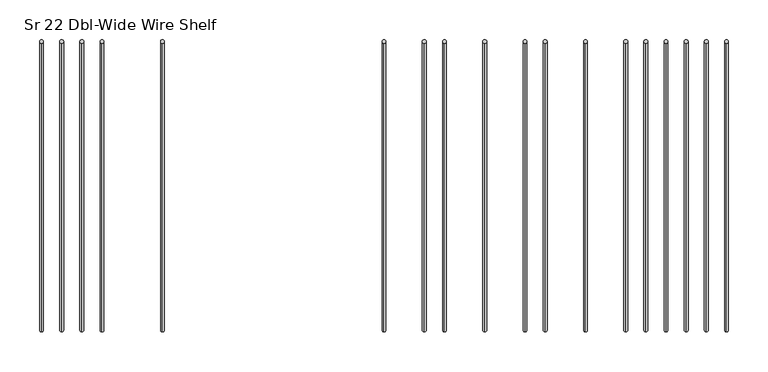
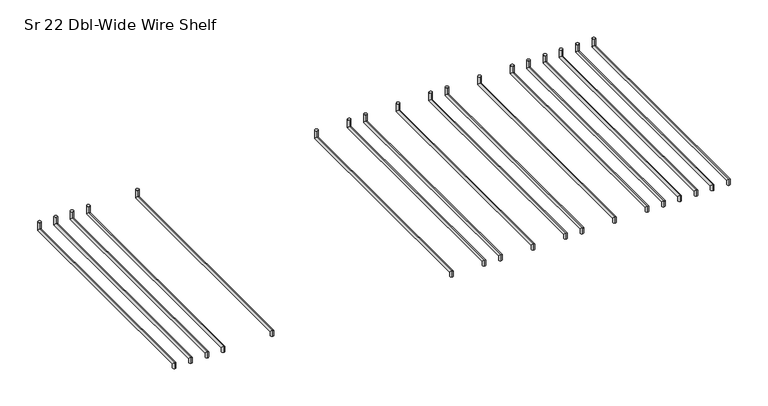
"""IFC4 building model written with IfcOpenShell, lengths in millimetres: furniture geometry, HermanMiller_Carts_CT521_CartShelf : Sr 22 Dbl-Wide Wire Shelf."""

from ifc_helpers import new_model, si_unit, frame, origin, place, context, project, spatial, circle_curve, ellipse_curve, source, transform, mapped, element, save
from ifc_brep_helpers import plane_surface, cylinder_surface, advanced_brep


def sr_22_dbl_wide_wire_shelf_ddc422bb(model_context):
    return source(origin(), model_context, "Body", "AdvancedBrep", [
        advanced_brep(
        [(561.7223083, -206.38135, 2224.6971), (561.7223083, -211.14385, 2224.6971), (561.7223083, -206.38135, 2229.4596), (561.7223083, -211.14385, 2234.2221), (561.7223083, 157.2983379, 2229.4596), (561.7223083, 152.5358379, 2234.2221), (561.7223083, 157.2983379, 2244.7377), (561.7223083, 152.5358379, 2244.7377)],
        [
            (0, 1, circle_curve(frame((561.7223083, -208.7626, 2224.6971), z_axis=(0.0, 0.0, -1.0), x_axis=(0.0, -1.0, 0.0)), 2.38125)),
            (1, 0, circle_curve(frame((561.7223083, -208.7626, 2224.6971), z_axis=(0.0, 0.0, -1.0), x_axis=(0.0, -1.0, 0.0)), 2.38125)),
            (0, 2),
            (2, 3, ellipse_curve(frame((561.7223083, -208.7626, 2231.84085), z_axis=(0.0, -0.7071067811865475, -0.7071067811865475), x_axis=(0.0, 0.7071067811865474, -0.7071067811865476)), 3.367596, 2.38125)),
            (3, 1),
            (3, 2, ellipse_curve(frame((561.7223083, -208.7626, 2231.84085), z_axis=(0.0, -0.7071067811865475, -0.7071067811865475), x_axis=(0.0, 0.7071067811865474, -0.7071067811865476)), 3.367596, 2.38125)),
            (2, 4),
            (4, 5, ellipse_curve(frame((561.7223083, 154.9170879, 2231.84085), z_axis=(0.0, -0.7071067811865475, -0.7071067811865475), x_axis=(0.0, -0.7071067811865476, 0.7071067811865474)), 3.367596, 2.38125)),
            (5, 3),
            (5, 4, ellipse_curve(frame((561.7223083, 154.9170879, 2231.84085), z_axis=(0.0, -0.7071067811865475, -0.7071067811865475), x_axis=(0.0, -0.7071067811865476, 0.7071067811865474)), 3.367596, 2.38125)),
            (6, 7, circle_curve(frame((561.7223083, 154.9170879, 2244.7377), z_axis=(0.0, 0.0, 1.0), x_axis=(0.0, -1.0, 0.0)), 2.38125)),
            (7, 6, circle_curve(frame((561.7223083, 154.9170879, 2244.7377), z_axis=(0.0, 0.0, 1.0), x_axis=(0.0, -1.0, 0.0)), 2.38125)),
            (4, 6),
            (7, 5),
        ],
        [
            plane_surface(frame((561.7223083, -208.7626, 2224.6971), z_axis=(0.0, 0.0, -1.0), x_axis=(1.0, 0.0, 0.0))),
            cylinder_surface(frame((561.7223083, -208.7626, 2224.6971), z_axis=(0.0, 0.0, -1.0), x_axis=(0.0, -1.0, 0.0)), 2.38125),
            cylinder_surface(frame((561.7223083, -208.7626, 2231.84085), z_axis=(0.0, -1.0, 0.0), x_axis=(0.0, 0.0, 1.0)), 2.38125),
            plane_surface(frame((561.7223083, 154.9170879, 2244.7377), z_axis=(0.0, 0.0, 1.0), x_axis=(1.0, 0.0, 0.0))),
            cylinder_surface(frame((561.7223083, 154.9170879, 2231.84085), z_axis=(0.0, 0.0, -1.0), x_axis=(0.0, -1.0, 0.0)), 2.38125),
        ],
        [
            (0, [[1, 2]]),
            (1, [[-1, 3, 4, 5]]),
            (1, [[-2, -5, 6, -3]]),
            (2, [[-4, 7, 8, 9]]),
            (2, [[-6, -9, 10, -7]]),
            (3, [[11, 12]]),
            (4, [[-8, 13, -12, 14]]),
            (4, [[-10, -14, -11, -13]]),
        ],
    ),
        advanced_brep(
        [(637.9223083, -206.38135, 2224.6971), (637.9223083, -211.14385, 2224.6971), (637.9223083, -206.38135, 2229.4596), (637.9223083, -211.14385, 2234.2221), (637.9223083, 157.2983379, 2229.4596), (637.9223083, 152.5358379, 2234.2221), (637.9223083, 157.2983379, 2244.7377), (637.9223083, 152.5358379, 2244.7377)],
        [
            (0, 1, circle_curve(frame((637.9223083, -208.7626, 2224.6971), z_axis=(0.0, 0.0, -1.0), x_axis=(0.0, -1.0, 0.0)), 2.38125)),
            (1, 0, circle_curve(frame((637.9223083, -208.7626, 2224.6971), z_axis=(0.0, 0.0, -1.0), x_axis=(0.0, -1.0, 0.0)), 2.38125)),
            (0, 2),
            (2, 3, ellipse_curve(frame((637.9223083, -208.7626, 2231.84085), z_axis=(0.0, -0.7071067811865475, -0.7071067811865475), x_axis=(0.0, 0.7071067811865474, -0.7071067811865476)), 3.367596, 2.38125)),
            (3, 1),
            (3, 2, ellipse_curve(frame((637.9223083, -208.7626, 2231.84085), z_axis=(0.0, -0.7071067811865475, -0.7071067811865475), x_axis=(0.0, 0.7071067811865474, -0.7071067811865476)), 3.367596, 2.38125)),
            (2, 4),
            (4, 5, ellipse_curve(frame((637.9223083, 154.9170879, 2231.84085), z_axis=(0.0, -0.7071067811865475, -0.7071067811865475), x_axis=(0.0, -0.7071067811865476, 0.7071067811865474)), 3.367596, 2.38125)),
            (5, 3),
            (5, 4, ellipse_curve(frame((637.9223083, 154.9170879, 2231.84085), z_axis=(0.0, -0.7071067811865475, -0.7071067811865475), x_axis=(0.0, -0.7071067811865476, 0.7071067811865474)), 3.367596, 2.38125)),
            (6, 7, circle_curve(frame((637.9223083, 154.9170879, 2244.7377), z_axis=(0.0, 0.0, 1.0), x_axis=(0.0, -1.0, 0.0)), 2.38125)),
            (7, 6, circle_curve(frame((637.9223083, 154.9170879, 2244.7377), z_axis=(0.0, 0.0, 1.0), x_axis=(0.0, -1.0, 0.0)), 2.38125)),
            (4, 6),
            (7, 5),
        ],
        [
            plane_surface(frame((637.9223083, -208.7626, 2224.6971), z_axis=(0.0, 0.0, -1.0), x_axis=(1.0, 0.0, 0.0))),
            cylinder_surface(frame((637.9223083, -208.7626, 2224.6971), z_axis=(0.0, 0.0, -1.0), x_axis=(0.0, -1.0, 0.0)), 2.38125),
            cylinder_surface(frame((637.9223083, -208.7626, 2231.84085), z_axis=(0.0, -1.0, 0.0), x_axis=(0.0, 0.0, 1.0)), 2.38125),
            plane_surface(frame((637.9223083, 154.9170879, 2244.7377), z_axis=(0.0, 0.0, 1.0), x_axis=(1.0, 0.0, 0.0))),
            cylinder_surface(frame((637.9223083, 154.9170879, 2231.84085), z_axis=(0.0, 0.0, -1.0), x_axis=(0.0, -1.0, 0.0)), 2.38125),
        ],
        [
            (0, [[1, 2]]),
            (1, [[-1, 3, 4, 5]]),
            (1, [[-2, -5, 6, -3]]),
            (2, [[-4, 7, 8, 9]]),
            (2, [[-6, -9, 10, -7]]),
            (3, [[11, 12]]),
            (4, [[-8, 13, -12, 14]]),
            (4, [[-10, -14, -11, -13]]),
        ],
    ),
        advanced_brep(
        [(688.7223083, -206.38135, 2224.6971), (688.7223083, -211.14385, 2224.6971), (688.7223083, -206.38135, 2229.4596), (688.7223083, -211.14385, 2234.2221), (688.7223083, 157.2983379, 2229.4596), (688.7223083, 152.5358379, 2234.2221), (688.7223083, 157.2983379, 2244.7377), (688.7223083, 152.5358379, 2244.7377)],
        [
            (0, 1, circle_curve(frame((688.7223083, -208.7626, 2224.6971), z_axis=(0.0, 0.0, -1.0), x_axis=(0.0, -1.0, 0.0)), 2.38125)),
            (1, 0, circle_curve(frame((688.7223083, -208.7626, 2224.6971), z_axis=(0.0, 0.0, -1.0), x_axis=(0.0, -1.0, 0.0)), 2.38125)),
            (0, 2),
            (2, 3, ellipse_curve(frame((688.7223083, -208.7626, 2231.84085), z_axis=(0.0, -0.7071067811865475, -0.7071067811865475), x_axis=(0.0, 0.7071067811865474, -0.7071067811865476)), 3.367596, 2.38125)),
            (3, 1),
            (3, 2, ellipse_curve(frame((688.7223083, -208.7626, 2231.84085), z_axis=(0.0, -0.7071067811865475, -0.7071067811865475), x_axis=(0.0, 0.7071067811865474, -0.7071067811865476)), 3.367596, 2.38125)),
            (2, 4),
            (4, 5, ellipse_curve(frame((688.7223083, 154.9170879, 2231.84085), z_axis=(0.0, -0.7071067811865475, -0.7071067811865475), x_axis=(0.0, -0.7071067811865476, 0.7071067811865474)), 3.367596, 2.38125)),
            (5, 3),
            (5, 4, ellipse_curve(frame((688.7223083, 154.9170879, 2231.84085), z_axis=(0.0, -0.7071067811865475, -0.7071067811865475), x_axis=(0.0, -0.7071067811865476, 0.7071067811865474)), 3.367596, 2.38125)),
            (6, 7, circle_curve(frame((688.7223083, 154.9170879, 2244.7377), z_axis=(0.0, 0.0, 1.0), x_axis=(0.0, -1.0, 0.0)), 2.38125)),
            (7, 6, circle_curve(frame((688.7223083, 154.9170879, 2244.7377), z_axis=(0.0, 0.0, 1.0), x_axis=(0.0, -1.0, 0.0)), 2.38125)),
            (4, 6),
            (7, 5),
        ],
        [
            plane_surface(frame((688.7223083, -208.7626, 2224.6971), z_axis=(0.0, 0.0, -1.0), x_axis=(1.0, 0.0, 0.0))),
            cylinder_surface(frame((688.7223083, -208.7626, 2224.6971), z_axis=(0.0, 0.0, -1.0), x_axis=(0.0, -1.0, 0.0)), 2.38125),
            cylinder_surface(frame((688.7223083, -208.7626, 2231.84085), z_axis=(0.0, -1.0, 0.0), x_axis=(0.0, 0.0, 1.0)), 2.38125),
            plane_surface(frame((688.7223083, 154.9170879, 2244.7377), z_axis=(0.0, 0.0, 1.0), x_axis=(1.0, 0.0, 0.0))),
            cylinder_surface(frame((688.7223083, 154.9170879, 2231.84085), z_axis=(0.0, 0.0, -1.0), x_axis=(0.0, -1.0, 0.0)), 2.38125),
        ],
        [
            (0, [[1, 2]]),
            (1, [[-1, 3, 4, 5]]),
            (1, [[-2, -5, 6, -3]]),
            (2, [[-4, 7, 8, 9]]),
            (2, [[-6, -9, 10, -7]]),
            (3, [[11, 12]]),
            (4, [[-8, 13, -12, 14]]),
            (4, [[-10, -14, -11, -13]]),
        ],
    ),
        advanced_brep(
        [(663.3223083, -206.38135, 2224.6971), (663.3223083, -211.14385, 2224.6971), (663.3223083, -206.38135, 2229.4596), (663.3223083, -211.14385, 2234.2221), (663.3223083, 157.2983379, 2229.4596), (663.3223083, 152.5358379, 2234.2221), (663.3223083, 157.2983379, 2244.7377), (663.3223083, 152.5358379, 2244.7377)],
        [
            (0, 1, circle_curve(frame((663.3223083, -208.7626, 2224.6971), z_axis=(0.0, 0.0, -1.0), x_axis=(0.0, -1.0, 0.0)), 2.38125)),
            (1, 0, circle_curve(frame((663.3223083, -208.7626, 2224.6971), z_axis=(0.0, 0.0, -1.0), x_axis=(0.0, -1.0, 0.0)), 2.38125)),
            (0, 2),
            (2, 3, ellipse_curve(frame((663.3223083, -208.7626, 2231.84085), z_axis=(0.0, -0.7071067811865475, -0.7071067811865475), x_axis=(0.0, 0.7071067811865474, -0.7071067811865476)), 3.367596, 2.38125)),
            (3, 1),
            (3, 2, ellipse_curve(frame((663.3223083, -208.7626, 2231.84085), z_axis=(0.0, -0.7071067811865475, -0.7071067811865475), x_axis=(0.0, 0.7071067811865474, -0.7071067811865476)), 3.367596, 2.38125)),
            (2, 4),
            (4, 5, ellipse_curve(frame((663.3223083, 154.9170879, 2231.84085), z_axis=(0.0, -0.7071067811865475, -0.7071067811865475), x_axis=(0.0, -0.7071067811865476, 0.7071067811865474)), 3.367596, 2.38125)),
            (5, 3),
            (5, 4, ellipse_curve(frame((663.3223083, 154.9170879, 2231.84085), z_axis=(0.0, -0.7071067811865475, -0.7071067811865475), x_axis=(0.0, -0.7071067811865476, 0.7071067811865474)), 3.367596, 2.38125)),
            (6, 7, circle_curve(frame((663.3223083, 154.9170879, 2244.7377), z_axis=(0.0, 0.0, 1.0), x_axis=(0.0, -1.0, 0.0)), 2.38125)),
            (7, 6, circle_curve(frame((663.3223083, 154.9170879, 2244.7377), z_axis=(0.0, 0.0, 1.0), x_axis=(0.0, -1.0, 0.0)), 2.38125)),
            (4, 6),
            (7, 5),
        ],
        [
            plane_surface(frame((663.3223083, -208.7626, 2224.6971), z_axis=(0.0, 0.0, -1.0), x_axis=(1.0, 0.0, 0.0))),
            cylinder_surface(frame((663.3223083, -208.7626, 2224.6971), z_axis=(0.0, 0.0, -1.0), x_axis=(0.0, -1.0, 0.0)), 2.38125),
            cylinder_surface(frame((663.3223083, -208.7626, 2231.84085), z_axis=(0.0, -1.0, 0.0), x_axis=(0.0, 0.0, 1.0)), 2.38125),
            plane_surface(frame((663.3223083, 154.9170879, 2244.7377), z_axis=(0.0, 0.0, 1.0), x_axis=(1.0, 0.0, 0.0))),
            cylinder_surface(frame((663.3223083, 154.9170879, 2231.84085), z_axis=(0.0, 0.0, -1.0), x_axis=(0.0, -1.0, 0.0)), 2.38125),
        ],
        [
            (0, [[1, 2]]),
            (1, [[-1, 3, 4, 5]]),
            (1, [[-2, -5, 6, -3]]),
            (2, [[-4, 7, 8, 9]]),
            (2, [[-6, -9, 10, -7]]),
            (3, [[11, 12]]),
            (4, [[-8, 13, -12, 14]]),
            (4, [[-10, -14, -11, -13]]),
        ],
    ),
        advanced_brep(
        [(612.5223083, -206.38135, 2224.6971), (612.5223083, -211.14385, 2224.6971), (612.5223083, -206.38135, 2229.4596), (612.5223083, -211.14385, 2234.2221), (612.5223083, 157.2983379, 2229.4596), (612.5223083, 152.5358379, 2234.2221), (612.5223083, 157.2983379, 2244.7377), (612.5223083, 152.5358379, 2244.7377)],
        [
            (0, 1, circle_curve(frame((612.5223083, -208.7626, 2224.6971), z_axis=(0.0, 0.0, -1.0), x_axis=(0.0, -1.0, 0.0)), 2.38125)),
            (1, 0, circle_curve(frame((612.5223083, -208.7626, 2224.6971), z_axis=(0.0, 0.0, -1.0), x_axis=(0.0, -1.0, 0.0)), 2.38125)),
            (0, 2),
            (2, 3, ellipse_curve(frame((612.5223083, -208.7626, 2231.84085), z_axis=(0.0, -0.7071067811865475, -0.7071067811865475), x_axis=(0.0, 0.7071067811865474, -0.7071067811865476)), 3.367596, 2.38125)),
            (3, 1),
            (3, 2, ellipse_curve(frame((612.5223083, -208.7626, 2231.84085), z_axis=(0.0, -0.7071067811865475, -0.7071067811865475), x_axis=(0.0, 0.7071067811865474, -0.7071067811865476)), 3.367596, 2.38125)),
            (2, 4),
            (4, 5, ellipse_curve(frame((612.5223083, 154.9170879, 2231.84085), z_axis=(0.0, -0.7071067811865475, -0.7071067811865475), x_axis=(0.0, -0.7071067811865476, 0.7071067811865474)), 3.367596, 2.38125)),
            (5, 3),
            (5, 4, ellipse_curve(frame((612.5223083, 154.9170879, 2231.84085), z_axis=(0.0, -0.7071067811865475, -0.7071067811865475), x_axis=(0.0, -0.7071067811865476, 0.7071067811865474)), 3.367596, 2.38125)),
            (6, 7, circle_curve(frame((612.5223083, 154.9170879, 2244.7377), z_axis=(0.0, 0.0, 1.0), x_axis=(0.0, -1.0, 0.0)), 2.38125)),
            (7, 6, circle_curve(frame((612.5223083, 154.9170879, 2244.7377), z_axis=(0.0, 0.0, 1.0), x_axis=(0.0, -1.0, 0.0)), 2.38125)),
            (4, 6),
            (7, 5),
        ],
        [
            plane_surface(frame((612.5223083, -208.7626, 2224.6971), z_axis=(0.0, 0.0, -1.0), x_axis=(1.0, 0.0, 0.0))),
            cylinder_surface(frame((612.5223083, -208.7626, 2224.6971), z_axis=(0.0, 0.0, -1.0), x_axis=(0.0, -1.0, 0.0)), 2.38125),
            cylinder_surface(frame((612.5223083, -208.7626, 2231.84085), z_axis=(0.0, -1.0, 0.0), x_axis=(0.0, 0.0, 1.0)), 2.38125),
            plane_surface(frame((612.5223083, 154.9170879, 2244.7377), z_axis=(0.0, 0.0, 1.0), x_axis=(1.0, 0.0, 0.0))),
            cylinder_surface(frame((612.5223083, 154.9170879, 2231.84085), z_axis=(0.0, 0.0, -1.0), x_axis=(0.0, -1.0, 0.0)), 2.38125),
        ],
        [
            (0, [[1, 2]]),
            (1, [[-1, 3, 4, 5]]),
            (1, [[-2, -5, 6, -3]]),
            (2, [[-4, 7, 8, 9]]),
            (2, [[-6, -9, 10, -7]]),
            (3, [[11, 12]]),
            (4, [[-8, 13, -12, 14]]),
            (4, [[-10, -14, -11, -13]]),
        ],
    ),
        advanced_brep(
        [(587.1223083, -206.38135, 2224.6971), (587.1223083, -211.14385, 2224.6971), (587.1223083, -206.38135, 2229.4596), (587.1223083, -211.14385, 2234.2221), (587.1223083, 157.2983379, 2229.4596), (587.1223083, 152.5358379, 2234.2221), (587.1223083, 157.2983379, 2244.7377), (587.1223083, 152.5358379, 2244.7377)],
        [
            (0, 1, circle_curve(frame((587.1223083, -208.7626, 2224.6971), z_axis=(0.0, 0.0, -1.0), x_axis=(0.0, -1.0, 0.0)), 2.38125)),
            (1, 0, circle_curve(frame((587.1223083, -208.7626, 2224.6971), z_axis=(0.0, 0.0, -1.0), x_axis=(0.0, -1.0, 0.0)), 2.38125)),
            (0, 2),
            (2, 3, ellipse_curve(frame((587.1223083, -208.7626, 2231.84085), z_axis=(0.0, -0.7071067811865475, -0.7071067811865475), x_axis=(0.0, 0.7071067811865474, -0.7071067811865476)), 3.367596, 2.38125)),
            (3, 1),
            (3, 2, ellipse_curve(frame((587.1223083, -208.7626, 2231.84085), z_axis=(0.0, -0.7071067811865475, -0.7071067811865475), x_axis=(0.0, 0.7071067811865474, -0.7071067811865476)), 3.367596, 2.38125)),
            (2, 4),
            (4, 5, ellipse_curve(frame((587.1223083, 154.9170879, 2231.84085), z_axis=(0.0, -0.7071067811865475, -0.7071067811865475), x_axis=(0.0, -0.7071067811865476, 0.7071067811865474)), 3.367596, 2.38125)),
            (5, 3),
            (5, 4, ellipse_curve(frame((587.1223083, 154.9170879, 2231.84085), z_axis=(0.0, -0.7071067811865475, -0.7071067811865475), x_axis=(0.0, -0.7071067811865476, 0.7071067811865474)), 3.367596, 2.38125)),
            (6, 7, circle_curve(frame((587.1223083, 154.9170879, 2244.7377), z_axis=(0.0, 0.0, 1.0), x_axis=(0.0, -1.0, 0.0)), 2.38125)),
            (7, 6, circle_curve(frame((587.1223083, 154.9170879, 2244.7377), z_axis=(0.0, 0.0, 1.0), x_axis=(0.0, -1.0, 0.0)), 2.38125)),
            (4, 6),
            (7, 5),
        ],
        [
            plane_surface(frame((587.1223083, -208.7626, 2224.6971), z_axis=(0.0, 0.0, -1.0), x_axis=(1.0, 0.0, 0.0))),
            cylinder_surface(frame((587.1223083, -208.7626, 2224.6971), z_axis=(0.0, 0.0, -1.0), x_axis=(0.0, -1.0, 0.0)), 2.38125),
            cylinder_surface(frame((587.1223083, -208.7626, 2231.84085), z_axis=(0.0, -1.0, 0.0), x_axis=(0.0, 0.0, 1.0)), 2.38125),
            plane_surface(frame((587.1223083, 154.9170879, 2244.7377), z_axis=(0.0, 0.0, 1.0), x_axis=(1.0, 0.0, 0.0))),
            cylinder_surface(frame((587.1223083, 154.9170879, 2231.84085), z_axis=(0.0, 0.0, -1.0), x_axis=(0.0, -1.0, 0.0)), 2.38125),
        ],
        [
            (0, [[1, 2]]),
            (1, [[-1, 3, 4, 5]]),
            (1, [[-2, -5, 6, -3]]),
            (2, [[-4, 7, 8, 9]]),
            (2, [[-6, -9, 10, -7]]),
            (3, [[11, 12]]),
            (4, [[-8, 13, -12, 14]]),
            (4, [[-10, -14, -11, -13]]),
        ],
    ),
        advanced_brep(
        [(510.9223083, -206.38135, 2224.6971), (510.9223083, -211.14385, 2224.6971), (510.9223083, -206.38135, 2229.4596), (510.9223083, -211.14385, 2234.2221), (510.9223083, 157.2983379, 2229.4596), (510.9223083, 152.5358379, 2234.2221), (510.9223083, 157.2983379, 2244.7377), (510.9223083, 152.5358379, 2244.7377)],
        [
            (0, 1, circle_curve(frame((510.9223083, -208.7626, 2224.6971), z_axis=(0.0, 0.0, -1.0), x_axis=(0.0, -1.0, 0.0)), 2.38125)),
            (1, 0, circle_curve(frame((510.9223083, -208.7626, 2224.6971), z_axis=(0.0, 0.0, -1.0), x_axis=(0.0, -1.0, 0.0)), 2.38125)),
            (0, 2),
            (2, 3, ellipse_curve(frame((510.9223083, -208.7626, 2231.84085), z_axis=(0.0, -0.7071067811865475, -0.7071067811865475), x_axis=(0.0, 0.7071067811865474, -0.7071067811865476)), 3.367596, 2.38125)),
            (3, 1),
            (3, 2, ellipse_curve(frame((510.9223083, -208.7626, 2231.84085), z_axis=(0.0, -0.7071067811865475, -0.7071067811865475), x_axis=(0.0, 0.7071067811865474, -0.7071067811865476)), 3.367596, 2.38125)),
            (2, 4),
            (4, 5, ellipse_curve(frame((510.9223083, 154.9170879, 2231.84085), z_axis=(0.0, -0.7071067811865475, -0.7071067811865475), x_axis=(0.0, -0.7071067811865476, 0.7071067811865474)), 3.367596, 2.38125)),
            (5, 3),
            (5, 4, ellipse_curve(frame((510.9223083, 154.9170879, 2231.84085), z_axis=(0.0, -0.7071067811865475, -0.7071067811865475), x_axis=(0.0, -0.7071067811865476, 0.7071067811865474)), 3.367596, 2.38125)),
            (6, 7, circle_curve(frame((510.9223083, 154.9170879, 2244.7377), z_axis=(0.0, 0.0, 1.0), x_axis=(0.0, -1.0, 0.0)), 2.38125)),
            (7, 6, circle_curve(frame((510.9223083, 154.9170879, 2244.7377), z_axis=(0.0, 0.0, 1.0), x_axis=(0.0, -1.0, 0.0)), 2.38125)),
            (4, 6),
            (7, 5),
        ],
        [
            plane_surface(frame((510.9223083, -208.7626, 2224.6971), z_axis=(0.0, 0.0, -1.0), x_axis=(1.0, 0.0, 0.0))),
            cylinder_surface(frame((510.9223083, -208.7626, 2224.6971), z_axis=(0.0, 0.0, -1.0), x_axis=(0.0, -1.0, 0.0)), 2.38125),
            cylinder_surface(frame((510.9223083, -208.7626, 2231.84085), z_axis=(0.0, -1.0, 0.0), x_axis=(0.0, 0.0, 1.0)), 2.38125),
            plane_surface(frame((510.9223083, 154.9170879, 2244.7377), z_axis=(0.0, 0.0, 1.0), x_axis=(1.0, 0.0, 0.0))),
            cylinder_surface(frame((510.9223083, 154.9170879, 2231.84085), z_axis=(0.0, 0.0, -1.0), x_axis=(0.0, -1.0, 0.0)), 2.38125),
        ],
        [
            (0, [[1, 2]]),
            (1, [[-1, 3, 4, 5]]),
            (1, [[-2, -5, 6, -3]]),
            (2, [[-4, 7, 8, 9]]),
            (2, [[-6, -9, 10, -7]]),
            (3, [[11, 12]]),
            (4, [[-8, 13, -12, 14]]),
            (4, [[-10, -14, -11, -13]]),
        ],
    ),
        advanced_brep(
        [(460.1223083, -206.38135, 2224.6971), (460.1223083, -211.14385, 2224.6971), (460.1223083, -206.38135, 2229.4596), (460.1223083, -211.14385, 2234.2221), (460.1223083, 157.2983379, 2229.4596), (460.1223083, 152.5358379, 2234.2221), (460.1223083, 157.2983379, 2244.7377), (460.1223083, 152.5358379, 2244.7377)],
        [
            (0, 1, circle_curve(frame((460.1223083, -208.7626, 2224.6971), z_axis=(0.0, 0.0, -1.0), x_axis=(0.0, -1.0, 0.0)), 2.38125)),
            (1, 0, circle_curve(frame((460.1223083, -208.7626, 2224.6971), z_axis=(0.0, 0.0, -1.0), x_axis=(0.0, -1.0, 0.0)), 2.38125)),
            (0, 2),
            (2, 3, ellipse_curve(frame((460.1223083, -208.7626, 2231.84085), z_axis=(0.0, -0.7071067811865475, -0.7071067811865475), x_axis=(0.0, 0.7071067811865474, -0.7071067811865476)), 3.367596, 2.38125)),
            (3, 1),
            (3, 2, ellipse_curve(frame((460.1223083, -208.7626, 2231.84085), z_axis=(0.0, -0.7071067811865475, -0.7071067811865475), x_axis=(0.0, 0.7071067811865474, -0.7071067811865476)), 3.367596, 2.38125)),
            (2, 4),
            (4, 5, ellipse_curve(frame((460.1223083, 154.9170879, 2231.84085), z_axis=(0.0, -0.7071067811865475, -0.7071067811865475), x_axis=(0.0, -0.7071067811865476, 0.7071067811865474)), 3.367596, 2.38125)),
            (5, 3),
            (5, 4, ellipse_curve(frame((460.1223083, 154.9170879, 2231.84085), z_axis=(0.0, -0.7071067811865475, -0.7071067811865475), x_axis=(0.0, -0.7071067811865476, 0.7071067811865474)), 3.367596, 2.38125)),
            (6, 7, circle_curve(frame((460.1223083, 154.9170879, 2244.7377), z_axis=(0.0, 0.0, 1.0), x_axis=(0.0, -1.0, 0.0)), 2.38125)),
            (7, 6, circle_curve(frame((460.1223083, 154.9170879, 2244.7377), z_axis=(0.0, 0.0, 1.0), x_axis=(0.0, -1.0, 0.0)), 2.38125)),
            (4, 6),
            (7, 5),
        ],
        [
            plane_surface(frame((460.1223083, -208.7626, 2224.6971), z_axis=(0.0, 0.0, -1.0), x_axis=(1.0, 0.0, 0.0))),
            cylinder_surface(frame((460.1223083, -208.7626, 2224.6971), z_axis=(0.0, 0.0, -1.0), x_axis=(0.0, -1.0, 0.0)), 2.38125),
            cylinder_surface(frame((460.1223083, -208.7626, 2231.84085), z_axis=(0.0, -1.0, 0.0), x_axis=(0.0, 0.0, 1.0)), 2.38125),
            plane_surface(frame((460.1223083, 154.9170879, 2244.7377), z_axis=(0.0, 0.0, 1.0), x_axis=(1.0, 0.0, 0.0))),
            cylinder_surface(frame((460.1223083, 154.9170879, 2231.84085), z_axis=(0.0, 0.0, -1.0), x_axis=(0.0, -1.0, 0.0)), 2.38125),
        ],
        [
            (0, [[1, 2]]),
            (1, [[-1, 3, 4, 5]]),
            (1, [[-2, -5, 6, -3]]),
            (2, [[-4, 7, 8, 9]]),
            (2, [[-6, -9, 10, -7]]),
            (3, [[11, 12]]),
            (4, [[-8, 13, -12, 14]]),
            (4, [[-10, -14, -11, -13]]),
        ],
    ),
        advanced_brep(
        [(434.7223083, -206.38135, 2224.6971), (434.7223083, -211.14385, 2224.6971), (434.7223083, -206.38135, 2229.4596), (434.7223083, -211.14385, 2234.2221), (434.7223083, 157.2983379, 2229.4596), (434.7223083, 152.5358379, 2234.2221), (434.7223083, 157.2983379, 2244.7377), (434.7223083, 152.5358379, 2244.7377)],
        [
            (0, 1, circle_curve(frame((434.7223083, -208.7626, 2224.6971), z_axis=(0.0, 0.0, -1.0), x_axis=(0.0, -1.0, 0.0)), 2.38125)),
            (1, 0, circle_curve(frame((434.7223083, -208.7626, 2224.6971), z_axis=(0.0, 0.0, -1.0), x_axis=(0.0, -1.0, 0.0)), 2.38125)),
            (0, 2),
            (2, 3, ellipse_curve(frame((434.7223083, -208.7626, 2231.84085), z_axis=(0.0, -0.7071067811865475, -0.7071067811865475), x_axis=(0.0, 0.7071067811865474, -0.7071067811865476)), 3.367596, 2.38125)),
            (3, 1),
            (3, 2, ellipse_curve(frame((434.7223083, -208.7626, 2231.84085), z_axis=(0.0, -0.7071067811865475, -0.7071067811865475), x_axis=(0.0, 0.7071067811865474, -0.7071067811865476)), 3.367596, 2.38125)),
            (2, 4),
            (4, 5, ellipse_curve(frame((434.7223083, 154.9170879, 2231.84085), z_axis=(0.0, -0.7071067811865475, -0.7071067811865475), x_axis=(0.0, -0.7071067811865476, 0.7071067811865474)), 3.367596, 2.38125)),
            (5, 3),
            (5, 4, ellipse_curve(frame((434.7223083, 154.9170879, 2231.84085), z_axis=(0.0, -0.7071067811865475, -0.7071067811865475), x_axis=(0.0, -0.7071067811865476, 0.7071067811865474)), 3.367596, 2.38125)),
            (6, 7, circle_curve(frame((434.7223083, 154.9170879, 2244.7377), z_axis=(0.0, 0.0, 1.0), x_axis=(0.0, -1.0, 0.0)), 2.38125)),
            (7, 6, circle_curve(frame((434.7223083, 154.9170879, 2244.7377), z_axis=(0.0, 0.0, 1.0), x_axis=(0.0, -1.0, 0.0)), 2.38125)),
            (4, 6),
            (7, 5),
        ],
        [
            plane_surface(frame((434.7223083, -208.7626, 2224.6971), z_axis=(0.0, 0.0, -1.0), x_axis=(1.0, 0.0, 0.0))),
            cylinder_surface(frame((434.7223083, -208.7626, 2224.6971), z_axis=(0.0, 0.0, -1.0), x_axis=(0.0, -1.0, 0.0)), 2.38125),
            cylinder_surface(frame((434.7223083, -208.7626, 2231.84085), z_axis=(0.0, -1.0, 0.0), x_axis=(0.0, 0.0, 1.0)), 2.38125),
            plane_surface(frame((434.7223083, 154.9170879, 2244.7377), z_axis=(0.0, 0.0, 1.0), x_axis=(1.0, 0.0, 0.0))),
            cylinder_surface(frame((434.7223083, 154.9170879, 2231.84085), z_axis=(0.0, 0.0, -1.0), x_axis=(0.0, -1.0, 0.0)), 2.38125),
        ],
        [
            (0, [[1, 2]]),
            (1, [[-1, 3, 4, 5]]),
            (1, [[-2, -5, 6, -3]]),
            (2, [[-4, 7, 8, 9]]),
            (2, [[-6, -9, 10, -7]]),
            (3, [[11, 12]]),
            (4, [[-8, 13, -12, 14]]),
            (4, [[-10, -14, -11, -13]]),
        ],
    ),
        advanced_brep(
        [(-98.6776917, -206.38135, 2224.6971), (-98.6776917, -211.14385, 2224.6971), (-98.6776917, -206.38135, 2229.4596), (-98.6776917, -211.14385, 2234.2221), (-98.6776917, 157.2983379, 2229.4596), (-98.6776917, 152.5358379, 2234.2221), (-98.6776917, 157.2983379, 2244.7377), (-98.6776917, 152.5358379, 2244.7377)],
        [
            (0, 1, circle_curve(frame((-98.6776917, -208.7626, 2224.6971), z_axis=(0.0, 0.0, -1.0), x_axis=(0.0, -1.0, 0.0)), 2.38125)),
            (1, 0, circle_curve(frame((-98.6776917, -208.7626, 2224.6971), z_axis=(0.0, 0.0, -1.0), x_axis=(0.0, -1.0, 0.0)), 2.38125)),
            (0, 2),
            (2, 3, ellipse_curve(frame((-98.6776917, -208.7626, 2231.84085), z_axis=(0.0, -0.7071067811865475, -0.7071067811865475), x_axis=(0.0, 0.7071067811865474, -0.7071067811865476)), 3.367596, 2.38125)),
            (3, 1),
            (3, 2, ellipse_curve(frame((-98.6776917, -208.7626, 2231.84085), z_axis=(0.0, -0.7071067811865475, -0.7071067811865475), x_axis=(0.0, 0.7071067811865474, -0.7071067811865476)), 3.367596, 2.38125)),
            (2, 4),
            (4, 5, ellipse_curve(frame((-98.6776917, 154.9170879, 2231.84085), z_axis=(0.0, -0.7071067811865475, -0.7071067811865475), x_axis=(0.0, -0.7071067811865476, 0.7071067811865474)), 3.367596, 2.38125)),
            (5, 3),
            (5, 4, ellipse_curve(frame((-98.6776917, 154.9170879, 2231.84085), z_axis=(0.0, -0.7071067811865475, -0.7071067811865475), x_axis=(0.0, -0.7071067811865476, 0.7071067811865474)), 3.367596, 2.38125)),
            (6, 7, circle_curve(frame((-98.6776917, 154.9170879, 2244.7377), z_axis=(0.0, 0.0, 1.0), x_axis=(0.0, -1.0, 0.0)), 2.38125)),
            (7, 6, circle_curve(frame((-98.6776917, 154.9170879, 2244.7377), z_axis=(0.0, 0.0, 1.0), x_axis=(0.0, -1.0, 0.0)), 2.38125)),
            (4, 6),
            (7, 5),
        ],
        [
            plane_surface(frame((-98.6776917, -208.7626, 2224.6971), z_axis=(0.0, 0.0, -1.0), x_axis=(1.0, 0.0, 0.0))),
            cylinder_surface(frame((-98.6776917, -208.7626, 2224.6971), z_axis=(0.0, 0.0, -1.0), x_axis=(0.0, -1.0, 0.0)), 2.38125),
            cylinder_surface(frame((-98.6776917, -208.7626, 2231.84085), z_axis=(0.0, -1.0, 0.0), x_axis=(0.0, 0.0, 1.0)), 2.38125),
            plane_surface(frame((-98.6776917, 154.9170879, 2244.7377), z_axis=(0.0, 0.0, 1.0), x_axis=(1.0, 0.0, 0.0))),
            cylinder_surface(frame((-98.6776917, 154.9170879, 2231.84085), z_axis=(0.0, 0.0, -1.0), x_axis=(0.0, -1.0, 0.0)), 2.38125),
        ],
        [
            (0, [[1, 2]]),
            (1, [[-1, 3, 4, 5]]),
            (1, [[-2, -5, 6, -3]]),
            (2, [[-4, 7, 8, 9]]),
            (2, [[-6, -9, 10, -7]]),
            (3, [[11, 12]]),
            (4, [[-8, 13, -12, 14]]),
            (4, [[-10, -14, -11, -13]]),
        ],
    ),
        advanced_brep(
        [(-149.4776917, -206.38135, 2224.6971), (-149.4776917, -211.14385, 2224.6971), (-149.4776917, -206.38135, 2229.4596), (-149.4776917, -211.14385, 2234.2221), (-149.4776917, 157.2983379, 2229.4596), (-149.4776917, 152.5358379, 2234.2221), (-149.4776917, 157.2983379, 2244.7377), (-149.4776917, 152.5358379, 2244.7377)],
        [
            (0, 1, circle_curve(frame((-149.4776917, -208.7626, 2224.6971), z_axis=(0.0, 0.0, -1.0), x_axis=(0.0, -1.0, 0.0)), 2.38125)),
            (1, 0, circle_curve(frame((-149.4776917, -208.7626, 2224.6971), z_axis=(0.0, 0.0, -1.0), x_axis=(0.0, -1.0, 0.0)), 2.38125)),
            (0, 2),
            (2, 3, ellipse_curve(frame((-149.4776917, -208.7626, 2231.84085), z_axis=(0.0, -0.7071067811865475, -0.7071067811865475), x_axis=(0.0, 0.7071067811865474, -0.7071067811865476)), 3.367596, 2.38125)),
            (3, 1),
            (3, 2, ellipse_curve(frame((-149.4776917, -208.7626, 2231.84085), z_axis=(0.0, -0.7071067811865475, -0.7071067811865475), x_axis=(0.0, 0.7071067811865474, -0.7071067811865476)), 3.367596, 2.38125)),
            (2, 4),
            (4, 5, ellipse_curve(frame((-149.4776917, 154.9170879, 2231.84085), z_axis=(0.0, -0.7071067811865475, -0.7071067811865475), x_axis=(0.0, -0.7071067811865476, 0.7071067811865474)), 3.367596, 2.38125)),
            (5, 3),
            (5, 4, ellipse_curve(frame((-149.4776917, 154.9170879, 2231.84085), z_axis=(0.0, -0.7071067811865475, -0.7071067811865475), x_axis=(0.0, -0.7071067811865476, 0.7071067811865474)), 3.367596, 2.38125)),
            (6, 7, circle_curve(frame((-149.4776917, 154.9170879, 2244.7377), z_axis=(0.0, 0.0, 1.0), x_axis=(0.0, -1.0, 0.0)), 2.38125)),
            (7, 6, circle_curve(frame((-149.4776917, 154.9170879, 2244.7377), z_axis=(0.0, 0.0, 1.0), x_axis=(0.0, -1.0, 0.0)), 2.38125)),
            (4, 6),
            (7, 5),
        ],
        [
            plane_surface(frame((-149.4776917, -208.7626, 2224.6971), z_axis=(0.0, 0.0, -1.0), x_axis=(1.0, 0.0, 0.0))),
            cylinder_surface(frame((-149.4776917, -208.7626, 2224.6971), z_axis=(0.0, 0.0, -1.0), x_axis=(0.0, -1.0, 0.0)), 2.38125),
            cylinder_surface(frame((-149.4776917, -208.7626, 2231.84085), z_axis=(0.0, -1.0, 0.0), x_axis=(0.0, 0.0, 1.0)), 2.38125),
            plane_surface(frame((-149.4776917, 154.9170879, 2244.7377), z_axis=(0.0, 0.0, 1.0), x_axis=(1.0, 0.0, 0.0))),
            cylinder_surface(frame((-149.4776917, 154.9170879, 2231.84085), z_axis=(0.0, 0.0, -1.0), x_axis=(0.0, -1.0, 0.0)), 2.38125),
        ],
        [
            (0, [[1, 2]]),
            (1, [[-1, 3, 4, 5]]),
            (1, [[-2, -5, 6, -3]]),
            (2, [[-4, 7, 8, 9]]),
            (2, [[-6, -9, 10, -7]]),
            (3, [[11, 12]]),
            (4, [[-8, 13, -12, 14]]),
            (4, [[-10, -14, -11, -13]]),
        ],
    ),
        advanced_brep(
        [(-174.8776917, -206.38135, 2224.6971), (-174.8776917, -211.14385, 2224.6971), (-174.8776917, -206.38135, 2229.4596), (-174.8776917, -211.14385, 2234.2221), (-174.8776917, 157.2983379, 2229.4596), (-174.8776917, 152.5358379, 2234.2221), (-174.8776917, 157.2983379, 2244.7377), (-174.8776917, 152.5358379, 2244.7377)],
        [
            (0, 1, circle_curve(frame((-174.8776917, -208.7626, 2224.6971), z_axis=(0.0, 0.0, -1.0), x_axis=(0.0, -1.0, 0.0)), 2.38125)),
            (1, 0, circle_curve(frame((-174.8776917, -208.7626, 2224.6971), z_axis=(0.0, 0.0, -1.0), x_axis=(0.0, -1.0, 0.0)), 2.38125)),
            (0, 2),
            (2, 3, ellipse_curve(frame((-174.8776917, -208.7626, 2231.84085), z_axis=(0.0, -0.7071067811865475, -0.7071067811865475), x_axis=(0.0, 0.7071067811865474, -0.7071067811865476)), 3.367596, 2.38125)),
            (3, 1),
            (3, 2, ellipse_curve(frame((-174.8776917, -208.7626, 2231.84085), z_axis=(0.0, -0.7071067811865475, -0.7071067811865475), x_axis=(0.0, 0.7071067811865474, -0.7071067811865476)), 3.367596, 2.38125)),
            (2, 4),
            (4, 5, ellipse_curve(frame((-174.8776917, 154.9170879, 2231.84085), z_axis=(0.0, -0.7071067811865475, -0.7071067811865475), x_axis=(0.0, -0.7071067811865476, 0.7071067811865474)), 3.367596, 2.38125)),
            (5, 3),
            (5, 4, ellipse_curve(frame((-174.8776917, 154.9170879, 2231.84085), z_axis=(0.0, -0.7071067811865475, -0.7071067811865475), x_axis=(0.0, -0.7071067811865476, 0.7071067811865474)), 3.367596, 2.38125)),
            (6, 7, circle_curve(frame((-174.8776917, 154.9170879, 2244.7377), z_axis=(0.0, 0.0, 1.0), x_axis=(0.0, -1.0, 0.0)), 2.38125)),
            (7, 6, circle_curve(frame((-174.8776917, 154.9170879, 2244.7377), z_axis=(0.0, 0.0, 1.0), x_axis=(0.0, -1.0, 0.0)), 2.38125)),
            (4, 6),
            (7, 5),
        ],
        [
            plane_surface(frame((-174.8776917, -208.7626, 2224.6971), z_axis=(0.0, 0.0, -1.0), x_axis=(1.0, 0.0, 0.0))),
            cylinder_surface(frame((-174.8776917, -208.7626, 2224.6971), z_axis=(0.0, 0.0, -1.0), x_axis=(0.0, -1.0, 0.0)), 2.38125),
            cylinder_surface(frame((-174.8776917, -208.7626, 2231.84085), z_axis=(0.0, -1.0, 0.0), x_axis=(0.0, 0.0, 1.0)), 2.38125),
            plane_surface(frame((-174.8776917, 154.9170879, 2244.7377), z_axis=(0.0, 0.0, 1.0), x_axis=(1.0, 0.0, 0.0))),
            cylinder_surface(frame((-174.8776917, 154.9170879, 2231.84085), z_axis=(0.0, 0.0, -1.0), x_axis=(0.0, -1.0, 0.0)), 2.38125),
        ],
        [
            (0, [[1, 2]]),
            (1, [[-1, 3, 4, 5]]),
            (1, [[-2, -5, 6, -3]]),
            (2, [[-4, 7, 8, 9]]),
            (2, [[-6, -9, 10, -7]]),
            (3, [[11, 12]]),
            (4, [[-8, 13, -12, 14]]),
            (4, [[-10, -14, -11, -13]]),
        ],
    ),
        advanced_brep(
        [(-124.0776917, -206.38135, 2224.6971), (-124.0776917, -211.14385, 2224.6971), (-124.0776917, -206.38135, 2229.4596), (-124.0776917, -211.14385, 2234.2221), (-124.0776917, 157.2983379, 2229.4596), (-124.0776917, 152.5358379, 2234.2221), (-124.0776917, 157.2983379, 2244.7377), (-124.0776917, 152.5358379, 2244.7377)],
        [
            (0, 1, circle_curve(frame((-124.0776917, -208.7626, 2224.6971), z_axis=(0.0, 0.0, -1.0), x_axis=(0.0, -1.0, 0.0)), 2.38125)),
            (1, 0, circle_curve(frame((-124.0776917, -208.7626, 2224.6971), z_axis=(0.0, 0.0, -1.0), x_axis=(0.0, -1.0, 0.0)), 2.38125)),
            (0, 2),
            (2, 3, ellipse_curve(frame((-124.0776917, -208.7626, 2231.84085), z_axis=(0.0, -0.7071067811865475, -0.7071067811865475), x_axis=(0.0, 0.7071067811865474, -0.7071067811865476)), 3.367596, 2.38125)),
            (3, 1),
            (3, 2, ellipse_curve(frame((-124.0776917, -208.7626, 2231.84085), z_axis=(0.0, -0.7071067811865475, -0.7071067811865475), x_axis=(0.0, 0.7071067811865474, -0.7071067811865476)), 3.367596, 2.38125)),
            (2, 4),
            (4, 5, ellipse_curve(frame((-124.0776917, 154.9170879, 2231.84085), z_axis=(0.0, -0.7071067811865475, -0.7071067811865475), x_axis=(0.0, -0.7071067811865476, 0.7071067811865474)), 3.367596, 2.38125)),
            (5, 3),
            (5, 4, ellipse_curve(frame((-124.0776917, 154.9170879, 2231.84085), z_axis=(0.0, -0.7071067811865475, -0.7071067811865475), x_axis=(0.0, -0.7071067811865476, 0.7071067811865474)), 3.367596, 2.38125)),
            (6, 7, circle_curve(frame((-124.0776917, 154.9170879, 2244.7377), z_axis=(0.0, 0.0, 1.0), x_axis=(0.0, -1.0, 0.0)), 2.38125)),
            (7, 6, circle_curve(frame((-124.0776917, 154.9170879, 2244.7377), z_axis=(0.0, 0.0, 1.0), x_axis=(0.0, -1.0, 0.0)), 2.38125)),
            (4, 6),
            (7, 5),
        ],
        [
            plane_surface(frame((-124.0776917, -208.7626, 2224.6971), z_axis=(0.0, 0.0, -1.0), x_axis=(1.0, 0.0, 0.0))),
            cylinder_surface(frame((-124.0776917, -208.7626, 2224.6971), z_axis=(0.0, 0.0, -1.0), x_axis=(0.0, -1.0, 0.0)), 2.38125),
            cylinder_surface(frame((-124.0776917, -208.7626, 2231.84085), z_axis=(0.0, -1.0, 0.0), x_axis=(0.0, 0.0, 1.0)), 2.38125),
            plane_surface(frame((-124.0776917, 154.9170879, 2244.7377), z_axis=(0.0, 0.0, 1.0), x_axis=(1.0, 0.0, 0.0))),
            cylinder_surface(frame((-124.0776917, 154.9170879, 2231.84085), z_axis=(0.0, 0.0, -1.0), x_axis=(0.0, -1.0, 0.0)), 2.38125),
        ],
        [
            (0, [[1, 2]]),
            (1, [[-1, 3, 4, 5]]),
            (1, [[-2, -5, 6, -3]]),
            (2, [[-4, 7, 8, 9]]),
            (2, [[-6, -9, 10, -7]]),
            (3, [[11, 12]]),
            (4, [[-8, 13, -12, 14]]),
            (4, [[-10, -14, -11, -13]]),
        ],
    ),
        advanced_brep(
        [(-22.4776917, -206.38135, 2224.6971), (-22.4776917, -211.14385, 2224.6971), (-22.4776917, -206.38135, 2229.4596), (-22.4776917, -211.14385, 2234.2221), (-22.4776917, 157.2983379, 2229.4596), (-22.4776917, 152.5358379, 2234.2221), (-22.4776917, 157.2983379, 2244.7377), (-22.4776917, 152.5358379, 2244.7377)],
        [
            (0, 1, circle_curve(frame((-22.4776917, -208.7626, 2224.6971), z_axis=(0.0, 0.0, -1.0), x_axis=(0.0, -1.0, 0.0)), 2.38125)),
            (1, 0, circle_curve(frame((-22.4776917, -208.7626, 2224.6971), z_axis=(0.0, 0.0, -1.0), x_axis=(0.0, -1.0, 0.0)), 2.38125)),
            (0, 2),
            (2, 3, ellipse_curve(frame((-22.4776917, -208.7626, 2231.84085), z_axis=(0.0, -0.7071067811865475, -0.7071067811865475), x_axis=(0.0, 0.7071067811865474, -0.7071067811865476)), 3.367596, 2.38125)),
            (3, 1),
            (3, 2, ellipse_curve(frame((-22.4776917, -208.7626, 2231.84085), z_axis=(0.0, -0.7071067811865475, -0.7071067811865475), x_axis=(0.0, 0.7071067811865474, -0.7071067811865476)), 3.367596, 2.38125)),
            (2, 4),
            (4, 5, ellipse_curve(frame((-22.4776917, 154.9170879, 2231.84085), z_axis=(0.0, -0.7071067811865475, -0.7071067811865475), x_axis=(0.0, -0.7071067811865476, 0.7071067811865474)), 3.367596, 2.38125)),
            (5, 3),
            (5, 4, ellipse_curve(frame((-22.4776917, 154.9170879, 2231.84085), z_axis=(0.0, -0.7071067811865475, -0.7071067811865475), x_axis=(0.0, -0.7071067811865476, 0.7071067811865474)), 3.367596, 2.38125)),
            (6, 7, circle_curve(frame((-22.4776917, 154.9170879, 2244.7377), z_axis=(0.0, 0.0, 1.0), x_axis=(0.0, -1.0, 0.0)), 2.38125)),
            (7, 6, circle_curve(frame((-22.4776917, 154.9170879, 2244.7377), z_axis=(0.0, 0.0, 1.0), x_axis=(0.0, -1.0, 0.0)), 2.38125)),
            (4, 6),
            (7, 5),
        ],
        [
            plane_surface(frame((-22.4776917, -208.7626, 2224.6971), z_axis=(0.0, 0.0, -1.0), x_axis=(1.0, 0.0, 0.0))),
            cylinder_surface(frame((-22.4776917, -208.7626, 2224.6971), z_axis=(0.0, 0.0, -1.0), x_axis=(0.0, -1.0, 0.0)), 2.38125),
            cylinder_surface(frame((-22.4776917, -208.7626, 2231.84085), z_axis=(0.0, -1.0, 0.0), x_axis=(0.0, 0.0, 1.0)), 2.38125),
            plane_surface(frame((-22.4776917, 154.9170879, 2244.7377), z_axis=(0.0, 0.0, 1.0), x_axis=(1.0, 0.0, 0.0))),
            cylinder_surface(frame((-22.4776917, 154.9170879, 2231.84085), z_axis=(0.0, 0.0, -1.0), x_axis=(0.0, -1.0, 0.0)), 2.38125),
        ],
        [
            (0, [[1, 2]]),
            (1, [[-1, 3, 4, 5]]),
            (1, [[-2, -5, 6, -3]]),
            (2, [[-4, 7, 8, 9]]),
            (2, [[-6, -9, 10, -7]]),
            (3, [[11, 12]]),
            (4, [[-8, 13, -12, 14]]),
            (4, [[-10, -14, -11, -13]]),
        ],
    ),
        advanced_brep(
        [(333.1223083, -206.38135, 2224.6971), (333.1223083, -211.14385, 2224.6971), (333.1223083, -206.38135, 2229.4596), (333.1223083, -211.14385, 2234.2221), (333.1223083, 157.2983379, 2229.4596), (333.1223083, 152.5358379, 2234.2221), (333.1223083, 157.2983379, 2244.7377), (333.1223083, 152.5358379, 2244.7377)],
        [
            (0, 1, circle_curve(frame((333.1223083, -208.7626, 2224.6971), z_axis=(0.0, 0.0, -1.0), x_axis=(0.0, -1.0, 0.0)), 2.38125)),
            (1, 0, circle_curve(frame((333.1223083, -208.7626, 2224.6971), z_axis=(0.0, 0.0, -1.0), x_axis=(0.0, -1.0, 0.0)), 2.38125)),
            (0, 2),
            (2, 3, ellipse_curve(frame((333.1223083, -208.7626, 2231.84085), z_axis=(0.0, -0.7071067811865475, -0.7071067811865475), x_axis=(0.0, 0.7071067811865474, -0.7071067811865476)), 3.367596, 2.38125)),
            (3, 1),
            (3, 2, ellipse_curve(frame((333.1223083, -208.7626, 2231.84085), z_axis=(0.0, -0.7071067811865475, -0.7071067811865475), x_axis=(0.0, 0.7071067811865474, -0.7071067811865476)), 3.367596, 2.38125)),
            (2, 4),
            (4, 5, ellipse_curve(frame((333.1223083, 154.9170879, 2231.84085), z_axis=(0.0, -0.7071067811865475, -0.7071067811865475), x_axis=(0.0, -0.7071067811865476, 0.7071067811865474)), 3.367596, 2.38125)),
            (5, 3),
            (5, 4, ellipse_curve(frame((333.1223083, 154.9170879, 2231.84085), z_axis=(0.0, -0.7071067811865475, -0.7071067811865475), x_axis=(0.0, -0.7071067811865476, 0.7071067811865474)), 3.367596, 2.38125)),
            (6, 7, circle_curve(frame((333.1223083, 154.9170879, 2244.7377), z_axis=(0.0, 0.0, 1.0), x_axis=(0.0, -1.0, 0.0)), 2.38125)),
            (7, 6, circle_curve(frame((333.1223083, 154.9170879, 2244.7377), z_axis=(0.0, 0.0, 1.0), x_axis=(0.0, -1.0, 0.0)), 2.38125)),
            (4, 6),
            (7, 5),
        ],
        [
            plane_surface(frame((333.1223083, -208.7626, 2224.6971), z_axis=(0.0, 0.0, -1.0), x_axis=(1.0, 0.0, 0.0))),
            cylinder_surface(frame((333.1223083, -208.7626, 2224.6971), z_axis=(0.0, 0.0, -1.0), x_axis=(0.0, -1.0, 0.0)), 2.38125),
            cylinder_surface(frame((333.1223083, -208.7626, 2231.84085), z_axis=(0.0, -1.0, 0.0), x_axis=(0.0, 0.0, 1.0)), 2.38125),
            plane_surface(frame((333.1223083, 154.9170879, 2244.7377), z_axis=(0.0, 0.0, 1.0), x_axis=(1.0, 0.0, 0.0))),
            cylinder_surface(frame((333.1223083, 154.9170879, 2231.84085), z_axis=(0.0, 0.0, -1.0), x_axis=(0.0, -1.0, 0.0)), 2.38125),
        ],
        [
            (0, [[1, 2]]),
            (1, [[-1, 3, 4, 5]]),
            (1, [[-2, -5, 6, -3]]),
            (2, [[-4, 7, 8, 9]]),
            (2, [[-6, -9, 10, -7]]),
            (3, [[11, 12]]),
            (4, [[-8, 13, -12, 14]]),
            (4, [[-10, -14, -11, -13]]),
        ],
    ),
        advanced_brep(
        [(256.9223083, -206.38135, 2224.6971), (256.9223083, -211.14385, 2224.6971), (256.9223083, -206.38135, 2229.4596), (256.9223083, -211.14385, 2234.2221), (256.9223083, 157.2983379, 2229.4596), (256.9223083, 152.5358379, 2234.2221), (256.9223083, 157.2983379, 2244.7377), (256.9223083, 152.5358379, 2244.7377)],
        [
            (0, 1, circle_curve(frame((256.9223083, -208.7626, 2224.6971), z_axis=(0.0, 0.0, -1.0), x_axis=(0.0, -1.0, 0.0)), 2.38125)),
            (1, 0, circle_curve(frame((256.9223083, -208.7626, 2224.6971), z_axis=(0.0, 0.0, -1.0), x_axis=(0.0, -1.0, 0.0)), 2.38125)),
            (0, 2),
            (2, 3, ellipse_curve(frame((256.9223083, -208.7626, 2231.84085), z_axis=(0.0, -0.7071067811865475, -0.7071067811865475), x_axis=(0.0, 0.7071067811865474, -0.7071067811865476)), 3.367596, 2.38125)),
            (3, 1),
            (3, 2, ellipse_curve(frame((256.9223083, -208.7626, 2231.84085), z_axis=(0.0, -0.7071067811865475, -0.7071067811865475), x_axis=(0.0, 0.7071067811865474, -0.7071067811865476)), 3.367596, 2.38125)),
            (2, 4),
            (4, 5, ellipse_curve(frame((256.9223083, 154.9170879, 2231.84085), z_axis=(0.0, -0.7071067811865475, -0.7071067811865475), x_axis=(0.0, -0.7071067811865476, 0.7071067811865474)), 3.367596, 2.38125)),
            (5, 3),
            (5, 4, ellipse_curve(frame((256.9223083, 154.9170879, 2231.84085), z_axis=(0.0, -0.7071067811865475, -0.7071067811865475), x_axis=(0.0, -0.7071067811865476, 0.7071067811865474)), 3.367596, 2.38125)),
            (6, 7, circle_curve(frame((256.9223083, 154.9170879, 2244.7377), z_axis=(0.0, 0.0, 1.0), x_axis=(0.0, -1.0, 0.0)), 2.38125)),
            (7, 6, circle_curve(frame((256.9223083, 154.9170879, 2244.7377), z_axis=(0.0, 0.0, 1.0), x_axis=(0.0, -1.0, 0.0)), 2.38125)),
            (4, 6),
            (7, 5),
        ],
        [
            plane_surface(frame((256.9223083, -208.7626, 2224.6971), z_axis=(0.0, 0.0, -1.0), x_axis=(1.0, 0.0, 0.0))),
            cylinder_surface(frame((256.9223083, -208.7626, 2224.6971), z_axis=(0.0, 0.0, -1.0), x_axis=(0.0, -1.0, 0.0)), 2.38125),
            cylinder_surface(frame((256.9223083, -208.7626, 2231.84085), z_axis=(0.0, -1.0, 0.0), x_axis=(0.0, 0.0, 1.0)), 2.38125),
            plane_surface(frame((256.9223083, 154.9170879, 2244.7377), z_axis=(0.0, 0.0, 1.0), x_axis=(1.0, 0.0, 0.0))),
            cylinder_surface(frame((256.9223083, 154.9170879, 2231.84085), z_axis=(0.0, 0.0, -1.0), x_axis=(0.0, -1.0, 0.0)), 2.38125),
        ],
        [
            (0, [[1, 2]]),
            (1, [[-1, 3, 4, 5]]),
            (1, [[-2, -5, 6, -3]]),
            (2, [[-4, 7, 8, 9]]),
            (2, [[-6, -9, 10, -7]]),
            (3, [[11, 12]]),
            (4, [[-8, 13, -12, 14]]),
            (4, [[-10, -14, -11, -13]]),
        ],
    ),
        advanced_brep(
        [(307.7223083, -206.38135, 2224.6971), (307.7223083, -211.14385, 2224.6971), (307.7223083, -206.38135, 2229.4596), (307.7223083, -211.14385, 2234.2221), (307.7223083, 157.2983379, 2229.4596), (307.7223083, 152.5358379, 2234.2221), (307.7223083, 157.2983379, 2244.7377), (307.7223083, 152.5358379, 2244.7377)],
        [
            (0, 1, circle_curve(frame((307.7223083, -208.7626, 2224.6971), z_axis=(0.0, 0.0, -1.0), x_axis=(0.0, -1.0, 0.0)), 2.38125)),
            (1, 0, circle_curve(frame((307.7223083, -208.7626, 2224.6971), z_axis=(0.0, 0.0, -1.0), x_axis=(0.0, -1.0, 0.0)), 2.38125)),
            (0, 2),
            (2, 3, ellipse_curve(frame((307.7223083, -208.7626, 2231.84085), z_axis=(0.0, -0.7071067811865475, -0.7071067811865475), x_axis=(0.0, 0.7071067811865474, -0.7071067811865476)), 3.367596, 2.38125)),
            (3, 1),
            (3, 2, ellipse_curve(frame((307.7223083, -208.7626, 2231.84085), z_axis=(0.0, -0.7071067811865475, -0.7071067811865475), x_axis=(0.0, 0.7071067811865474, -0.7071067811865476)), 3.367596, 2.38125)),
            (2, 4),
            (4, 5, ellipse_curve(frame((307.7223083, 154.9170879, 2231.84085), z_axis=(0.0, -0.7071067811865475, -0.7071067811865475), x_axis=(0.0, -0.7071067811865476, 0.7071067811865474)), 3.367596, 2.38125)),
            (5, 3),
            (5, 4, ellipse_curve(frame((307.7223083, 154.9170879, 2231.84085), z_axis=(0.0, -0.7071067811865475, -0.7071067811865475), x_axis=(0.0, -0.7071067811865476, 0.7071067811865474)), 3.367596, 2.38125)),
            (6, 7, circle_curve(frame((307.7223083, 154.9170879, 2244.7377), z_axis=(0.0, 0.0, 1.0), x_axis=(0.0, -1.0, 0.0)), 2.38125)),
            (7, 6, circle_curve(frame((307.7223083, 154.9170879, 2244.7377), z_axis=(0.0, 0.0, 1.0), x_axis=(0.0, -1.0, 0.0)), 2.38125)),
            (4, 6),
            (7, 5),
        ],
        [
            plane_surface(frame((307.7223083, -208.7626, 2224.6971), z_axis=(0.0, 0.0, -1.0), x_axis=(1.0, 0.0, 0.0))),
            cylinder_surface(frame((307.7223083, -208.7626, 2224.6971), z_axis=(0.0, 0.0, -1.0), x_axis=(0.0, -1.0, 0.0)), 2.38125),
            cylinder_surface(frame((307.7223083, -208.7626, 2231.84085), z_axis=(0.0, -1.0, 0.0), x_axis=(0.0, 0.0, 1.0)), 2.38125),
            plane_surface(frame((307.7223083, 154.9170879, 2244.7377), z_axis=(0.0, 0.0, 1.0), x_axis=(1.0, 0.0, 0.0))),
            cylinder_surface(frame((307.7223083, 154.9170879, 2231.84085), z_axis=(0.0, 0.0, -1.0), x_axis=(0.0, -1.0, 0.0)), 2.38125),
        ],
        [
            (0, [[1, 2]]),
            (1, [[-1, 3, 4, 5]]),
            (1, [[-2, -5, 6, -3]]),
            (2, [[-4, 7, 8, 9]]),
            (2, [[-6, -9, 10, -7]]),
            (3, [[11, 12]]),
            (4, [[-8, 13, -12, 14]]),
            (4, [[-10, -14, -11, -13]]),
        ],
    ),
        advanced_brep(
        [(383.9223083, -206.38135, 2224.6971), (383.9223083, -211.14385, 2224.6971), (383.9223083, -206.38135, 2229.4596), (383.9223083, -211.14385, 2234.2221), (383.9223083, 157.2983379, 2229.4596), (383.9223083, 152.5358379, 2234.2221), (383.9223083, 157.2983379, 2244.7377), (383.9223083, 152.5358379, 2244.7377)],
        [
            (0, 1, circle_curve(frame((383.9223083, -208.7626, 2224.6971), z_axis=(0.0, 0.0, -1.0), x_axis=(0.0, -1.0, 0.0)), 2.38125)),
            (1, 0, circle_curve(frame((383.9223083, -208.7626, 2224.6971), z_axis=(0.0, 0.0, -1.0), x_axis=(0.0, -1.0, 0.0)), 2.38125)),
            (0, 2),
            (2, 3, ellipse_curve(frame((383.9223083, -208.7626, 2231.84085), z_axis=(0.0, -0.7071067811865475, -0.7071067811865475), x_axis=(0.0, 0.7071067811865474, -0.7071067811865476)), 3.367596, 2.38125)),
            (3, 1),
            (3, 2, ellipse_curve(frame((383.9223083, -208.7626, 2231.84085), z_axis=(0.0, -0.7071067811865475, -0.7071067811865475), x_axis=(0.0, 0.7071067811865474, -0.7071067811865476)), 3.367596, 2.38125)),
            (2, 4),
            (4, 5, ellipse_curve(frame((383.9223083, 154.9170879, 2231.84085), z_axis=(0.0, -0.7071067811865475, -0.7071067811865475), x_axis=(0.0, -0.7071067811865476, 0.7071067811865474)), 3.367596, 2.38125)),
            (5, 3),
            (5, 4, ellipse_curve(frame((383.9223083, 154.9170879, 2231.84085), z_axis=(0.0, -0.7071067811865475, -0.7071067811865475), x_axis=(0.0, -0.7071067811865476, 0.7071067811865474)), 3.367596, 2.38125)),
            (6, 7, circle_curve(frame((383.9223083, 154.9170879, 2244.7377), z_axis=(0.0, 0.0, 1.0), x_axis=(0.0, -1.0, 0.0)), 2.38125)),
            (7, 6, circle_curve(frame((383.9223083, 154.9170879, 2244.7377), z_axis=(0.0, 0.0, 1.0), x_axis=(0.0, -1.0, 0.0)), 2.38125)),
            (4, 6),
            (7, 5),
        ],
        [
            plane_surface(frame((383.9223083, -208.7626, 2224.6971), z_axis=(0.0, 0.0, -1.0), x_axis=(1.0, 0.0, 0.0))),
            cylinder_surface(frame((383.9223083, -208.7626, 2224.6971), z_axis=(0.0, 0.0, -1.0), x_axis=(0.0, -1.0, 0.0)), 2.38125),
            cylinder_surface(frame((383.9223083, -208.7626, 2231.84085), z_axis=(0.0, -1.0, 0.0), x_axis=(0.0, 0.0, 1.0)), 2.38125),
            plane_surface(frame((383.9223083, 154.9170879, 2244.7377), z_axis=(0.0, 0.0, 1.0), x_axis=(1.0, 0.0, 0.0))),
            cylinder_surface(frame((383.9223083, 154.9170879, 2231.84085), z_axis=(0.0, 0.0, -1.0), x_axis=(0.0, -1.0, 0.0)), 2.38125),
        ],
        [
            (0, [[1, 2]]),
            (1, [[-1, 3, 4, 5]]),
            (1, [[-2, -5, 6, -3]]),
            (2, [[-4, 7, 8, 9]]),
            (2, [[-6, -9, 10, -7]]),
            (3, [[11, 12]]),
            (4, [[-8, 13, -12, 14]]),
            (4, [[-10, -14, -11, -13]]),
        ],
    ),
    ])


if __name__ == "__main__":
    model = new_model("IFC4")
    model_context = context("Model", 3, world=origin())
    ifc_project = project(units=[si_unit("LENGTHUNIT", "METRE", prefix="MILLI")], contexts=[model_context])
    site = spatial("IfcSite", under=ifc_project)
    building = spatial("IfcBuilding", under=site)
    placement = place(None, origin())
    sr_22_dbl_wide_wire_shelf_shape = sr_22_dbl_wide_wire_shelf_ddc422bb(model_context)
    element("IfcFurniture", 1, ObjectType="HermanMiller_Carts_CT521_CartShelf : Sr 22 Dbl-Wide Wire Shelf", at=placement, inside=building, context=model_context, shape_type="MappedRepresentation", body=[
        mapped(sr_22_dbl_wide_wire_shelf_shape, transform((0.0, 0.0, 0.0), x_axis=(1.0, 0.0, 0.0), y_axis=(0.0, 1.0, 0.0), z_axis=(0.0, 0.0, 1.0))),
    ])
    save(model, "model.ifc")
